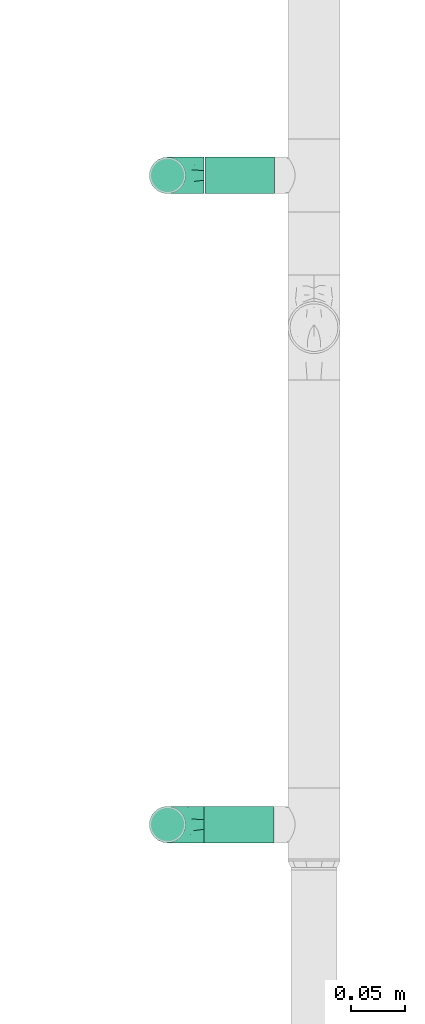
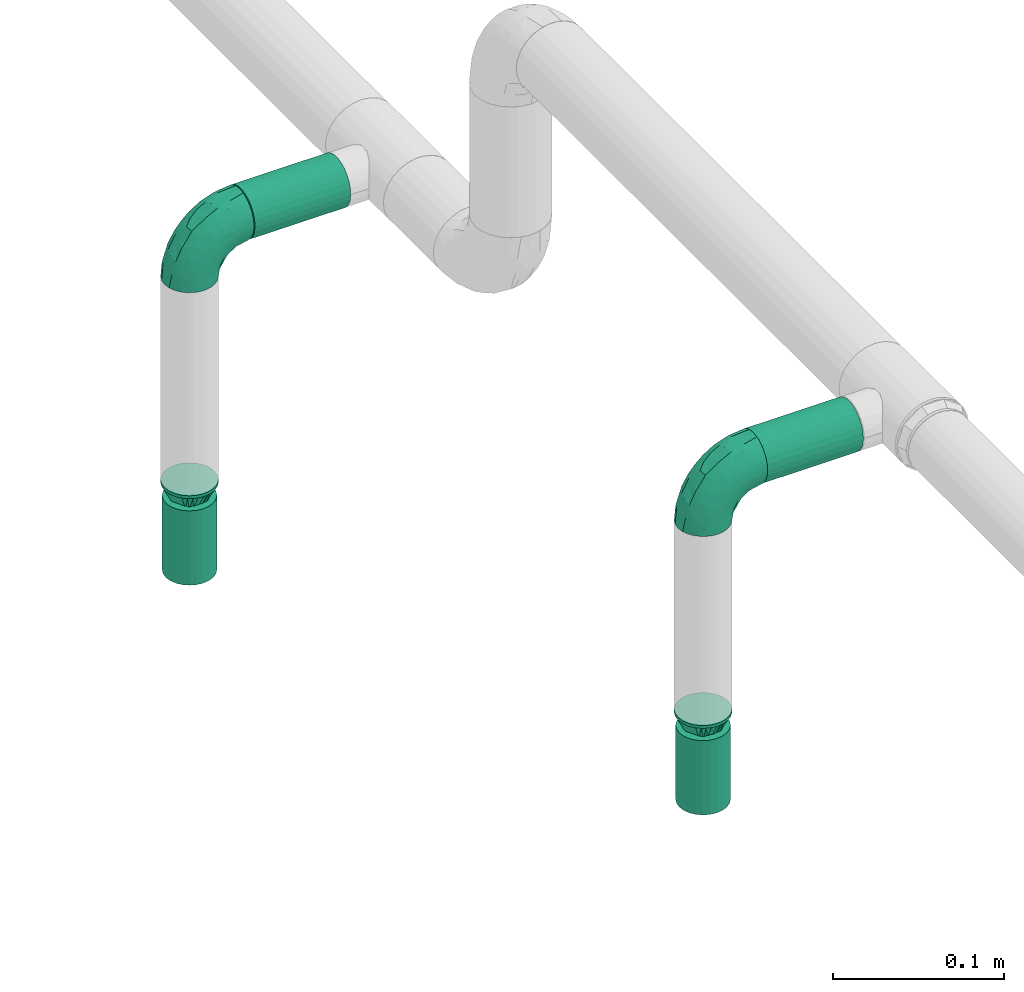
# One storey, part 64 of 157: 4 flow fittings, 2 flow segments, 2 flow terminals.
"""IFC2X3 building model written with IfcOpenShell, lengths in millimetres."""

from ifc_helpers import new_model, entity, si_unit, converted_unit, derived_unit, direction, frame, origin_with_axes, origin_2d_with_axis, place, context, subcontext, project, spatial, hollow_circle, extrude, open_shell, surface_model, source, transform, mapped, type_object, element, save


model = new_model("IFC2X3")

# Units and contexts
model_context = context("Model", 3, precision=0.01, world=frame((0.0, 4.29681676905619e-09, 0.0)), true_north=direction((4.01073788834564e-13, 1.0)))
plan_context = context("Plan", 3, precision=0.01, world=frame((0.0, 4.29681676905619e-09, 0.0)), true_north=direction((4.01073788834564e-13, 1.0)))
body_context = subcontext(model_context, "Body", "Model", "MODEL_VIEW")
ifc_project = project(units=[converted_unit("PLANEANGLEUNIT", "DEGREE", entity("IfcPositiveLengthMeasure", 0.0174532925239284), si_unit("PLANEANGLEUNIT", "RADIAN"), dimensions=[0, 0, 0, 0, 0, 0, 0]), si_unit("AREAUNIT", "SQUARE_METRE"), si_unit("LENGTHUNIT", "METRE", prefix="MILLI"), si_unit("MASSUNIT", "GRAM", prefix="KILO"), si_unit("POWERUNIT", "WATT"), si_unit("PRESSUREUNIT", "PASCAL"), si_unit("FORCEUNIT", "NEWTON", prefix="KILO"), si_unit("ELECTRICCURRENTUNIT", "AMPERE"), si_unit("THERMODYNAMICTEMPERATUREUNIT", "DEGREE_CELSIUS"), si_unit("TIMEUNIT", "SECOND"), si_unit("VOLUMEUNIT", "CUBIC_METRE"), derived_unit("LINEARVELOCITYUNIT", [(si_unit("LENGTHUNIT", "METRE"), 1), (si_unit("TIMEUNIT", "SECOND"), -1)]), derived_unit("VOLUMETRICFLOWRATEUNIT", [(si_unit("VOLUMEUNIT", "CUBIC_METRE"), 1), (si_unit("TIMEUNIT", "SECOND"), -1)]), derived_unit("THERMALTRANSMITTANCEUNIT", [(si_unit("POWERUNIT", "WATT"), 1), (si_unit("THERMODYNAMICTEMPERATUREUNIT", "KELVIN"), -1), (si_unit("AREAUNIT", "SQUARE_METRE"), -1)])], contexts=[model_context, plan_context])

# Site, building, storey
site_placement = place(None, frame((0.0, -4.29681676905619e-09, 0.0), z_axis=(0.0, 0.0, 1.0), x_axis=(1.0, 0.0, 0.0)))
site = spatial("IfcSite", under=ifc_project, at=site_placement, CompositionType="ELEMENT")
building_placement = place(site_placement, frame((0.0, 4.29681676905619e-09, 0.0), z_axis=(0.0, 0.0, 1.0), x_axis=(1.0, 0.0, 0.0)))
building = spatial("IfcBuilding", under=site, at=building_placement, Name="mc-building", CompositionType="ELEMENT")
storey_placement = place(building_placement, frame((0.0, 0.0, 204000.0), z_axis=(0.0, 0.0, 1.0), x_axis=(1.0, 0.0, 0.0)))
storey = spatial("IfcBuildingStorey", under=building, at=storey_placement, Name="Nivå D", CompositionType="ELEMENT", Elevation=204000.0)

# Flow fittings
pipe_fitting_type_1 = type_object("IfcPipeFittingType", Name="magi_pipe_fe_elbow_short_001", PredefinedType="BEND")
shared_shape_1 = source(origin_with_axes(), body_context, "Body", "SurfaceModel", [
    surface_model("IfcShellBasedSurfaceModel", [(-33.8, 8.45, -14.63583), (-33.8, 4.37404, -16.32415), (-33.8, 11.9501, -11.9501), (-33.8, -11.9501, -11.9501), (-33.8, -14.63583, -8.45), (-33.8, -8.45, -14.63583), (-33.8, 0.0, -16.9), (-33.8, -4.37404, -16.32415), (-33.8, -4.37404, 16.32415), (-33.8, 0.0, 16.9), (-33.8, -8.45, 14.63583), (-33.8, 16.32415, -4.37404), (-33.8, 14.63583, -8.45), (-33.8, -16.32415, -4.37404), (-33.8, -16.9, 0.0), (-33.8, -16.32415, 4.37404), (-33.8, 11.9501, 11.9501), (-33.8, 14.63583, 8.45), (-33.8, 16.32415, 4.37404), (-33.8, 4.37404, 16.32415), (-33.8, 8.45, 14.63583), (-33.8, -14.63583, 8.45), (-33.8, -11.9501, 11.9501), (-33.8, 16.9, 0.0), (-11.9501, 33.8, -11.9501), (0.0, 33.8, -16.9), (-4.37404, 33.8, -16.32415), (-8.45, 33.8, -14.63583), (-14.63583, 33.8, -8.45), (-16.32415, 33.8, -4.37404), (14.63583, 33.8, -8.45), (8.45, 33.8, 14.63583), (16.32415, 33.8, -4.37404), (8.45, 33.8, -14.63583), (11.9501, 33.8, -11.9501), (4.37404, 33.8, -16.32415), (16.32415, 33.8, 4.37404), (16.9, 33.8, 0.0), (-11.9501, 33.8, 11.9501), (-16.32415, 33.8, 4.37404), (-14.63583, 33.8, 8.45), (-8.45, 33.8, 14.63583), (-4.37404, 33.8, 16.32415), (11.9501, 33.8, 11.9501), (14.63583, 33.8, 8.45), (0.0, 33.8, 16.9), (4.37404, 33.8, 16.32415), (-16.9, 33.8, 0.0), (-24.79389, -13.12945, 9.48721), (-22.19287, -9.75018, 12.59315), (-24.09897, -14.97035, 0.0), (-14.93934, -10.76256, 8.5297), (-22.46095, -14.75051, 5.27077), (14.75051, 22.46094, 5.27077), (11.9251, 13.23888, 4.33236), (13.04069, 14.39795, 0.0), (7.71387, 13.68847, 11.55891), (9.75018, 22.19287, 12.59315), (4.10169, 13.0571, 14.04018), (-24.84007, -6.39063, 15.2048), (-25.81779, -2.23879, 16.61097), (-23.66549, 2.59054, 16.87119), (-26.50418, 14.06512, 11.08152), (-24.21253, 17.66365, 7.72657), (-29.58514, 15.86957, 7.00283), (-6.17382, -7.5455, 0.0), (-13.23888, -11.9251, 4.33236), (-14.39795, -13.04069, 0.0), (-17.81434, 18.87373, 11.97104), (-6.30846, 29.15138, 15.82987), (-2.31622, 25.28002, 16.85849), (-29.23923, 10.23435, 13.77053), (-1.45439, -2.85688, 7.61475), (-0.28326, 0.34872, 10.09509), (-5.74484, -4.04709, 10.4122), (-4.41137, 11.31918, 16.59407), (-8.39727, 3.10034, 15.7812), (-1.72649, 9.1306, 15.53089), (-17.39909, 24.75344, 7.64977), (-26.19233, 20.0512, 0.0), (-28.14518, 17.29657, 4.25857), (-26.05147, 6.6281, 15.96447), (-5.87354, 16.61944, 16.86968), (-12.51807, 12.51807, 16.48937), (-10.06312, 7.38516, 16.81295), (-3.01882, 3.01882, 13.81718), (-13.0571, -4.10169, 14.04018), (-16.82553, -0.15166, 16.38038), (10.76256, 14.93934, 8.5297), (13.12945, 24.79389, 9.48721), (6.39063, 24.84007, 15.2048), (2.23879, 25.81779, 16.61097), (-13.68847, -7.71387, 11.55891), (14.97035, 24.09897, 0.0), (-7.30894, 22.89991, 16.09489), (-10.67958, 26.17414, 14.008), (-12.78295, 18.26924, 15.06066), (-13.88562, 22.45231, 12.93244), (-18.04944, 15.16501, 14.04434), (-23.11658, 20.08178, 4.02986), (-21.84989, 21.84989, 0.0), (-18.55817, 25.48277, 3.93065), (-13.95142, 26.94732, 11.03289), (-18.57098, 7.23906, 16.59756), (-16.58335, 4.14122, 16.89279), (-17.96666, 11.46709, 15.63151), (-9.84453, 17.54304, 16.18938), (0.15166, 16.82553, 16.38038), (-23.27207, 11.47201, 14.23154), (3.84842, 5.86994, 10.70473), (-8.0212, -7.54413, 7.93275), (1.00345, -2.19508, 4.57414), (5.13203, 3.01004, 5.90201), (5.24161, 1.7543, 2.53265), (8.70457, 7.04947, 3.99182), (-20.0512, 26.19233, 0.0), (8.4852, 8.76699, 7.09296), (-4.55488, -6.72064, 4.90681), (2.05031, -2.05031, 0.0), (7.5455, 6.17382, 0.0), (-26.75399, 2.1369, -16.845), (-14.61995, 24.73803, -11.27736), (-28.45274, -13.45335, -9.81895), (-26.00469, 6.63555, -15.96645), (-23.06726, 20.04573, -4.26202), (-13.80647, -4.26506, -14.17873), (-14.67501, -0.21081, -16.07388), (-6.7902, -0.2828, -13.8478), (-24.53586, 11.08096, -14.13417), (-26.72048, 14.00837, -11.05776), (10.0967, 24.44989, -12.75976), (5.83237, 21.40218, -15.03047), (6.66249, 28.54238, -15.38093), (-20.38182, 15.48705, -12.74596), (12.53268, 21.23441, -9.15363), (12.54494, 15.67504, -5.54878), (9.7522, 12.89279, -8.66343), (-15.65186, 19.64213, -13.01327), (-12.03528, 20.66498, -14.67665), (-15.61907, 15.61906, -14.83879), (-25.56551, -15.26206, 0.0), (-24.65452, -15.12934, -5.50955), (13.45335, 28.45274, -9.81895), (15.12934, 24.65452, -5.50955), (-7.35442, -8.31014, -5.65563), (-15.67504, -12.54494, -5.54878), (-24.44989, -10.0967, -12.75976), (0.16522, 0.41303, -9.71728), (-5.70658, -5.33066, -8.89288), (-5.13869, -2.37198, -11.53565), (-21.23441, -12.53268, -9.15363), (0.71146, 7.93863, -14.09382), (0.21081, 14.67501, -16.07388), (3.49291, 14.42772, -14.76381), (-24.89911, -2.13088, -16.591), (-28.54238, -6.66249, -15.38093), (-18.44386, -7.71663, -13.26957), (2.13088, 24.89911, -16.591), (-28.64342, 17.44413, -2.89318), (1.70017, -1.28722, -5.09504), (-16.57067, 26.81947, -7.36596), (-17.69055, 27.4263, -3.76405), (-12.89279, -9.7522, -8.66343), (-5.96611, 5.96611, -15.95814), (-20.53709, 20.09345, -8.28985), (-2.1369, 26.75399, -16.845), (-6.89872, 24.58781, -16.02578), (-10.60739, 26.53157, -13.98044), (-21.40218, -5.83237, -15.03047), (2.93192, 5.89627, -11.55917), (6.89393, 12.61842, -11.82233), (5.58056, 5.95325, -8.79455), (-3.99512, 18.61798, -16.89635), (8.31014, 7.35442, -5.65563), (-9.1383, 9.86148, -16.89041), (-9.99983, 16.02119, -16.39699), (-16.68576, 9.78031, -16.34199), (-27.01915, 16.61158, -7.12979), (15.26206, 25.56551, 0.0), (-18.61798, 3.99512, -16.89635), (-19.37495, 27.82495, 0.0), (-12.61842, -6.89393, -11.82233), (-18.84705, 19.14018, -10.96545)], [open_shell([[[0, 1, 2]], [[3, 4, 5]], [[6, 7, 5]], [[8, 9, 10]], [[1, 6, 2]], [[11, 12, 2]], [[4, 2, 6]], [[2, 13, 10]], [[5, 4, 6]], [[2, 4, 13]], [[14, 15, 13]], [[11, 2, 16]], [[11, 17, 18]], [[11, 16, 17]], [[19, 20, 16]], [[16, 2, 10]], [[19, 16, 10]], [[21, 22, 15]], [[22, 13, 15]], [[22, 10, 13]], [[10, 9, 19]], [[11, 18, 23]], [[24, 25, 26]], [[24, 26, 27]], [[24, 28, 29]], [[25, 24, 30]], [[31, 32, 24]], [[33, 30, 34]], [[33, 35, 25]], [[25, 30, 33]], [[32, 30, 24]], [[32, 36, 37]], [[38, 24, 29]], [[39, 40, 29]], [[40, 38, 29]], [[38, 41, 42]], [[38, 31, 24]], [[31, 38, 42]], [[36, 43, 44]], [[36, 32, 43]], [[31, 45, 46]], [[32, 31, 43]], [[42, 45, 31]], [[39, 29, 47]], [[22, 48, 49]], [[15, 14, 50]], [[51, 48, 52]], [[53, 54, 55]], [[48, 22, 21]], [[15, 52, 21]], [[56, 57, 58]], [[49, 10, 22]], [[49, 59, 10]], [[9, 60, 61]], [[62, 63, 64]], [[65, 66, 67]], [[57, 43, 31]], [[62, 68, 63]], [[42, 69, 70]], [[20, 71, 16]], [[8, 60, 9]], [[72, 73, 74]], [[75, 76, 77]], [[16, 62, 17]], [[40, 39, 78]], [[79, 23, 80]], [[64, 18, 17]], [[9, 61, 19]], [[19, 81, 20]], [[82, 83, 84]], [[74, 85, 86]], [[59, 86, 87]], [[88, 89, 57]], [[90, 31, 46]], [[44, 53, 36]], [[46, 45, 91]], [[54, 53, 88]], [[44, 89, 53]], [[92, 86, 49]], [[89, 44, 43]], [[10, 59, 8]], [[53, 55, 93]], [[93, 36, 53]], [[66, 52, 67]], [[94, 82, 70]], [[95, 96, 94]], [[97, 98, 96]], [[79, 99, 100]], [[41, 38, 95]], [[101, 100, 99]], [[68, 78, 63]], [[42, 41, 69]], [[23, 18, 80]], [[95, 94, 69]], [[78, 101, 99]], [[38, 102, 95]], [[70, 45, 42]], [[97, 95, 102]], [[15, 50, 52]], [[90, 57, 31]], [[57, 90, 58]], [[81, 19, 61]], [[103, 104, 84]], [[105, 81, 103]], [[38, 40, 102]], [[106, 96, 83]], [[94, 106, 82]], [[91, 70, 107]], [[71, 62, 16]], [[62, 108, 98]], [[86, 59, 49]], [[67, 52, 50]], [[60, 59, 87]], [[92, 49, 51]], [[86, 85, 76]], [[91, 90, 46]], [[37, 36, 93]], [[107, 77, 58]], [[107, 58, 90]], [[58, 85, 109]], [[110, 74, 92]], [[72, 74, 110]], [[66, 51, 52]], [[72, 111, 112]], [[113, 114, 112]], [[56, 88, 57]], [[52, 48, 21]], [[49, 48, 51]], [[57, 89, 43]], [[53, 89, 88]], [[103, 81, 61]], [[71, 81, 108]], [[18, 64, 80]], [[63, 78, 99]], [[47, 115, 101]], [[101, 115, 100]], [[40, 78, 102]], [[68, 102, 78]], [[97, 96, 95]], [[105, 98, 108]], [[103, 84, 83]], [[107, 70, 82]], [[76, 84, 87]], [[82, 84, 75]], [[70, 91, 45]], [[90, 91, 107]], [[59, 60, 8]], [[61, 60, 87]], [[73, 85, 74]], [[109, 112, 116]], [[103, 61, 104]], [[105, 103, 83]], [[96, 105, 83]], [[81, 105, 108]], [[96, 98, 105]], [[62, 98, 68]], [[61, 87, 104]], [[87, 84, 104]], [[86, 76, 87]], [[77, 76, 85]], [[58, 77, 85]], [[75, 77, 107]], [[82, 75, 107]], [[76, 75, 84]], [[81, 71, 20]], [[62, 71, 108]], [[95, 69, 41]], [[70, 69, 94]], [[62, 64, 17]], [[80, 63, 99]], [[63, 80, 64]], [[80, 99, 79]], [[66, 65, 117]], [[110, 66, 117]], [[112, 114, 116]], [[118, 117, 65]], [[110, 92, 51]], [[112, 111, 113]], [[119, 55, 54]], [[74, 86, 92]], [[58, 109, 56]], [[116, 56, 109]], [[66, 110, 51]], [[72, 110, 117]], [[111, 72, 117]], [[73, 112, 109]], [[117, 118, 111]], [[113, 111, 118]], [[118, 119, 113]], [[114, 119, 54]], [[119, 114, 113]], [[116, 54, 88]], [[54, 116, 114]], [[116, 88, 56]], [[112, 73, 72]], [[85, 73, 109]], [[78, 39, 101]], [[47, 101, 39]], [[102, 68, 97]], [[97, 68, 98]], [[82, 106, 83]], [[94, 96, 106]], [[1, 120, 6]], [[28, 24, 121]], [[3, 122, 4]], [[0, 123, 1]], [[100, 124, 79]], [[125, 126, 127]], [[128, 2, 129]], [[130, 131, 132]], [[128, 129, 133]], [[134, 135, 136]], [[137, 138, 139]], [[128, 0, 2]], [[67, 140, 141]], [[134, 142, 143]], [[141, 13, 4]], [[144, 65, 145]], [[146, 3, 5]], [[147, 148, 149]], [[145, 141, 150]], [[151, 152, 153]], [[154, 7, 6]], [[5, 155, 146]], [[150, 146, 156]], [[155, 5, 7]], [[143, 135, 134]], [[35, 157, 25]], [[23, 79, 158]], [[148, 159, 144]], [[160, 161, 29]], [[145, 162, 144]], [[163, 152, 151]], [[29, 28, 160]], [[121, 164, 160]], [[33, 34, 130]], [[25, 165, 26]], [[26, 165, 166]], [[142, 34, 30]], [[24, 27, 167]], [[124, 161, 164]], [[157, 35, 132]], [[155, 154, 168]], [[123, 0, 128]], [[169, 170, 171]], [[172, 157, 152]], [[26, 166, 27]], [[132, 35, 33]], [[142, 130, 34]], [[168, 154, 126]], [[136, 135, 173]], [[133, 137, 139]], [[2, 12, 129]], [[170, 131, 130]], [[30, 32, 143]], [[172, 174, 175]], [[176, 123, 128]], [[158, 177, 11]], [[135, 55, 119]], [[167, 27, 166]], [[175, 166, 172]], [[137, 167, 138]], [[122, 141, 4]], [[140, 14, 13]], [[32, 37, 178]], [[170, 130, 134]], [[152, 157, 131]], [[165, 157, 172]], [[153, 170, 151]], [[152, 163, 174]], [[168, 125, 156]], [[122, 146, 150]], [[120, 154, 6]], [[179, 174, 126]], [[179, 126, 154]], [[126, 163, 127]], [[162, 145, 150]], [[140, 13, 141]], [[32, 178, 143]], [[55, 143, 178]], [[177, 129, 12]], [[128, 133, 139]], [[176, 128, 139]], [[120, 123, 179]], [[121, 160, 28]], [[161, 100, 180]], [[166, 175, 138]], [[121, 24, 167]], [[161, 47, 29]], [[79, 124, 158]], [[124, 164, 177]], [[161, 124, 100]], [[136, 171, 170]], [[127, 163, 151]], [[147, 171, 159]], [[148, 144, 162]], [[127, 151, 169]], [[127, 181, 125]], [[129, 177, 164]], [[12, 11, 177]], [[159, 65, 144]], [[67, 141, 145]], [[143, 55, 135]], [[135, 119, 173]], [[123, 120, 1]], [[154, 120, 179]], [[157, 165, 25]], [[166, 165, 172]], [[172, 152, 174]], [[176, 139, 175]], [[126, 174, 163]], [[176, 174, 179]], [[174, 176, 175]], [[123, 176, 179]], [[150, 181, 162]], [[127, 149, 181]], [[181, 148, 162]], [[159, 148, 147]], [[171, 136, 173]], [[170, 134, 136]], [[159, 171, 173]], [[171, 147, 169]], [[169, 147, 149]], [[151, 170, 169]], [[164, 182, 129]], [[182, 121, 137]], [[181, 149, 148]], [[169, 149, 127]], [[182, 137, 133]], [[167, 137, 121]], [[166, 138, 167]], [[175, 139, 138]], [[129, 182, 133]], [[121, 182, 164]], [[161, 160, 164]], [[47, 161, 180]], [[177, 158, 124]], [[23, 158, 11]], [[130, 132, 33]], [[157, 132, 131]], [[143, 142, 30]], [[130, 142, 134]], [[154, 155, 7]], [[146, 155, 168]], [[146, 122, 3]], [[141, 122, 150]], [[152, 131, 153]], [[159, 119, 118]], [[67, 145, 65]], [[170, 153, 131]], [[119, 159, 173]], [[159, 118, 65]], [[156, 125, 181]], [[126, 125, 168]], [[150, 156, 181]], [[168, 156, 146]]])]),
])
for number, where, z_axis, x_axis, name in (
    (1, (521500.0, 413600.00018, 2690.0), (0.0, 1.0, 0.0), (0.0, 0.0, 1.0), "magi_pipe_fe_elbow_short_001"),
    (2, (521500.0, 413000.0, 2880.0), (0.0, 1.0, 0.0), (0.0, 0.0, 1.0), "magi_pipe_fe_elbow_short_001"),
):
    element("IfcFlowFitting", number, at=place(storey_placement, frame(where, z_axis=z_axis, x_axis=x_axis)), inside=storey, type_object=pipe_fitting_type_1, Name=name, context=body_context, shape_type="MappedRepresentation", body=[
        mapped(shared_shape_1, transform((0.0, 0.0, 0.0), scale=1.0)),
    ])
pipe_fitting_type_2 = type_object("IfcPipeFittingType", Name="magi_pipe_fe_reducer_centric_short_NOR", PredefinedType="TRANSITION")
shared_shape_2 = source(origin_with_axes(), body_context, "Body", "SurfaceModel", [
    surface_model("IfcShellBasedSurfaceModel", [(-2.0, -7.56604, -7.56604), (-2.0, -10.33541, -2.76936), (-2.0, -5.35, -9.26647), (-2.0, 5.35, -9.26647), (-2.0, 10.33541, -2.76936), (-2.0, 7.56604, -7.56604), (12.4, 11.9501, 11.9501), (12.4, 0.0, 16.9), (12.4, 11.9501, -11.9501), (12.4, 16.9, 0.0), (0.0, -10.7, 0.0), (0.0, -5.35, 9.26647), (0.0, -5.35, -9.26647), (0.0, 10.7, 0.0), (12.4, 15.66253, -2.98753), (12.4, 8.96258, -13.18758), (0.0, 6.6875, -6.94985), (12.4, -15.66253, -2.98753), (12.4, -16.9, 0.0), (12.4, 5.97505, -14.42505), (0.0, 5.35, -9.26647), (12.4, 14.42505, -5.97505), (0.0, 8.025, -4.63324), (0.0, 9.3625, -2.31662), (0.0, -9.3625, -2.31662), (0.0, -8.025, -4.63324), (12.4, -14.42505, -5.97505), (12.4, 13.18758, -8.96258), (12.4, -13.18758, -8.96258), (12.4, -11.9501, -11.9501), (0.0, -6.6875, -6.94985), (12.4, -8.96258, -13.18758), (12.4, -5.97505, -14.42505), (12.4, -15.66253, 2.98753), (12.4, -8.96258, 13.18758), (0.0, -6.6875, 6.94985), (12.4, -11.9501, 11.9501), (12.4, 15.66253, 2.98753), (12.4, -5.97505, 14.42505), (12.4, -14.42505, 5.97505), (0.0, -8.025, 4.63324), (0.0, -9.3625, 2.31662), (0.0, 9.3625, 2.31662), (0.0, 8.025, 4.63324), (12.4, 14.42505, 5.97505), (12.4, -13.18758, 8.96258), (12.4, 13.18758, 8.96258), (0.0, 6.6875, 6.94985), (12.4, 8.96258, 13.18758), (0.0, 5.35, 9.26647), (12.4, 5.97505, 14.42505), (14.4, 4.37404, -16.32415), (14.4, 8.45, -14.63583), (14.4, 11.9501, -11.9501), (14.4, -8.45, -14.63583), (14.4, 16.32415, -4.37404), (14.4, 16.32415, 4.37404), (14.4, 14.63583, -8.45), (14.4, 0.0, -16.9), (14.4, -4.37404, -16.32415), (14.4, -11.9501, -11.9501), (14.4, -16.32415, -4.37404), (14.4, -14.63583, -8.45), (14.4, -16.32415, 4.37404), (14.4, 16.9, 0.0), (14.4, 14.63583, 8.45), (14.4, 11.9501, 11.9501), (14.4, 4.37404, 16.32415), (14.4, 8.45, 14.63583), (14.4, 0.0, 16.9), (14.4, -14.63583, 8.45), (14.4, -16.9, 0.0), (14.4, -8.45, 14.63583), (14.4, -11.9501, 11.9501), (14.4, -4.37404, 16.32415), (12.4, 4.37404, 16.32415), (12.4, -14.63583, 8.45), (12.4, 16.32415, 4.37404), (12.4, 8.45, 14.63583), (12.4, 14.63583, 8.45), (12.4, -8.45, 14.63583), (12.4, -4.37404, 16.32415), (12.4, -16.32415, 4.37404), (12.4, -16.32415, -4.37404), (12.4, -8.45, -14.63583), (12.4, 16.32415, -4.37404), (12.4, 14.63583, -8.45), (12.4, 8.45, -14.63583), (12.4, 4.37404, -16.32415), (12.4, 0.0, -16.9), (12.4, -14.63583, -8.45), (12.4, -4.37404, -16.32415), (-2.0, 2.76936, 10.33541), (-2.0, 0.0, 10.7), (-2.0, 5.35, 9.26647), (-2.0, 7.56604, 7.56604), (-2.0, 9.26647, 5.35), (-2.0, 10.33541, 2.76936), (-2.0, -10.33541, 2.76936), (-2.0, -2.76936, 10.33541), (-2.0, -7.56604, 7.56604), (-2.0, -5.35, 9.26647), (-2.0, -9.26647, 5.35), (-2.0, -10.7, 0.0), (-2.0, 9.26647, -5.35), (-2.0, 2.76936, -10.33541), (-2.0, -9.26647, -5.35), (-2.0, 0.0, -10.7), (-2.0, -2.76936, -10.33541), (-2.0, 10.7, 0.0), (0.0, 0.0, -10.7), (0.0, 2.76936, -10.33541), (0.0, 10.33541, -2.76936), (0.0, 7.56604, -7.56604), (0.0, -10.33541, -2.76936), (0.0, 9.26647, -5.35), (0.0, 0.0, 10.7), (0.0, -2.76936, -10.33541), (0.0, -7.56604, -7.56604), (0.0, -9.26647, -5.35), (0.0, 10.33541, 2.76936), (0.0, 9.26647, 5.35), (0.0, 7.56604, 7.56604), (0.0, 2.76936, 10.33541), (0.0, -7.56604, 7.56604), (0.0, -10.33541, 2.76936), (0.0, -9.26647, 5.35), (0.0, -2.76936, 10.33541), (0.0, 2.675, -9.26647), (0.0, -2.675, -9.26647), (12.4, 2.98753, -15.66253), (0.0, 0.0, -9.26647), (12.4, -2.98753, -15.66253), (0.0, -2.675, 9.26647), (0.0, 2.675, 9.26647), (12.4, -2.98753, 15.66253), (0.0, 0.0, 9.26647), (12.4, 2.98753, 15.66253)], [open_shell([[[0, 1, 2]], [[3, 4, 5]], [[6, 7, 8]], [[8, 9, 6]], [[10, 11, 12]], [[13, 9, 14]], [[15, 16, 8]], [[17, 18, 10]], [[15, 19, 20]], [[21, 22, 23]], [[24, 25, 26]], [[22, 21, 27]], [[28, 26, 25]], [[29, 30, 31]], [[12, 32, 31]], [[10, 18, 33]], [[34, 35, 36]], [[37, 9, 13]], [[34, 38, 11]], [[39, 40, 41]], [[42, 43, 44]], [[40, 39, 45]], [[46, 44, 43]], [[6, 47, 48]], [[49, 50, 48]], [[51, 52, 53]], [[54, 51, 53]], [[53, 55, 56]], [[55, 53, 57]], [[53, 56, 54]], [[58, 54, 59]], [[58, 51, 54]], [[60, 61, 62]], [[61, 60, 54]], [[54, 63, 61]], [[56, 55, 64]], [[56, 65, 66]], [[56, 66, 67]], [[67, 63, 54]], [[67, 66, 68]], [[63, 67, 69]], [[69, 70, 63]], [[71, 61, 63]], [[70, 72, 73]], [[70, 69, 72]], [[72, 69, 74]], [[54, 56, 67]], [[75, 76, 7]], [[77, 75, 78]], [[6, 79, 77]], [[6, 77, 78]], [[76, 75, 77]], [[80, 76, 36]], [[80, 81, 7]], [[7, 76, 80]], [[82, 76, 77]], [[82, 83, 18]], [[82, 77, 84]], [[77, 85, 8]], [[8, 85, 86]], [[8, 87, 88]], [[84, 77, 8]], [[88, 89, 8]], [[83, 29, 90]], [[29, 83, 84]], [[84, 89, 91]], [[83, 82, 84]], [[8, 89, 84]], [[85, 77, 9]], [[83, 61, 18]], [[90, 62, 83]], [[54, 29, 84]], [[90, 29, 60]], [[59, 84, 91]], [[83, 62, 61]], [[61, 71, 18]], [[59, 54, 84]], [[60, 29, 54]], [[60, 62, 90]], [[58, 59, 91]], [[91, 89, 58]], [[88, 51, 89]], [[87, 52, 88]], [[57, 8, 86]], [[87, 8, 53]], [[55, 86, 85]], [[87, 53, 52]], [[52, 51, 88]], [[64, 55, 85]], [[57, 86, 55]], [[57, 53, 8]], [[9, 64, 85]], [[89, 51, 58]], [[77, 56, 9]], [[79, 65, 77]], [[68, 6, 78]], [[79, 6, 66]], [[67, 78, 75]], [[77, 65, 56]], [[56, 64, 9]], [[67, 68, 78]], [[66, 6, 68]], [[66, 65, 79]], [[69, 67, 75]], [[75, 7, 69]], [[81, 74, 7]], [[80, 72, 81]], [[70, 36, 76]], [[80, 36, 73]], [[63, 76, 82]], [[80, 73, 72]], [[72, 74, 81]], [[71, 63, 82]], [[70, 76, 63]], [[70, 73, 36]], [[18, 71, 82]], [[7, 74, 69]], [[92, 1, 93]], [[94, 1, 92]], [[95, 96, 97]], [[95, 97, 94]], [[98, 93, 1]], [[99, 100, 101]], [[99, 93, 100]], [[100, 98, 102]], [[93, 98, 100]], [[98, 1, 103]], [[94, 97, 1]], [[1, 97, 4]], [[5, 4, 104]], [[4, 3, 1]], [[105, 1, 3]], [[1, 0, 106]], [[2, 107, 108]], [[2, 1, 105]], [[105, 107, 2]], [[4, 97, 109]], [[20, 110, 111]], [[112, 20, 113]], [[114, 20, 112]], [[112, 113, 115]], [[116, 114, 112]], [[110, 12, 117]], [[110, 20, 12]], [[118, 114, 119]], [[114, 118, 12]], [[20, 114, 12]], [[112, 13, 120]], [[120, 121, 122]], [[120, 122, 123]], [[116, 112, 123]], [[123, 122, 49]], [[116, 124, 114]], [[125, 124, 126]], [[10, 114, 125]], [[124, 127, 11]], [[125, 114, 124]], [[127, 124, 116]], [[123, 112, 120]], [[1, 114, 103]], [[106, 119, 1]], [[12, 0, 2]], [[106, 0, 118]], [[117, 2, 108]], [[1, 119, 114]], [[114, 10, 103]], [[117, 12, 2]], [[118, 0, 12]], [[118, 119, 106]], [[110, 117, 108]], [[108, 107, 110]], [[105, 111, 107]], [[3, 20, 105]], [[115, 5, 104]], [[3, 5, 113]], [[112, 104, 4]], [[3, 113, 20]], [[20, 111, 105]], [[13, 112, 4]], [[115, 104, 112]], [[115, 113, 5]], [[109, 13, 4]], [[107, 111, 110]], [[97, 120, 109]], [[96, 121, 97]], [[49, 95, 94]], [[96, 95, 122]], [[123, 94, 92]], [[97, 121, 120]], [[120, 13, 109]], [[123, 49, 94]], [[122, 95, 49]], [[122, 121, 96]], [[116, 123, 92]], [[92, 93, 116]], [[99, 127, 93]], [[101, 11, 99]], [[126, 100, 102]], [[101, 100, 124]], [[125, 102, 98]], [[101, 124, 11]], [[11, 127, 99]], [[10, 125, 98]], [[126, 102, 125]], [[126, 124, 100]], [[103, 10, 98]], [[93, 127, 116]], [[18, 7, 36]], [[18, 29, 8]], [[89, 8, 29]], [[18, 8, 7]], [[13, 11, 49]], [[13, 20, 12]], [[13, 12, 11]], [[24, 26, 17]], [[10, 24, 17]], [[16, 15, 20]], [[30, 12, 31]], [[23, 14, 21]], [[19, 128, 20]], [[27, 8, 16]], [[32, 12, 129]], [[30, 28, 25]], [[130, 131, 128]], [[129, 132, 32]], [[16, 22, 27]], [[13, 14, 23]], [[128, 19, 130]], [[130, 89, 131]], [[131, 132, 129]], [[89, 132, 131]], [[28, 30, 29]], [[42, 44, 37]], [[13, 42, 37]], [[35, 34, 11]], [[47, 49, 48]], [[41, 33, 39]], [[38, 133, 11]], [[45, 36, 35]], [[50, 49, 134]], [[47, 46, 43]], [[135, 136, 133]], [[134, 137, 50]], [[35, 40, 45]], [[10, 33, 41]], [[133, 38, 135]], [[135, 7, 136]], [[136, 137, 134]], [[7, 137, 136]], [[46, 47, 6]]])]),
])
for number, where, z_axis, x_axis, name in (
    (3, (521500.0, 413600.0, 2496.95199999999), (0.0, -1.0, 0.0), (0.0, 0.0, 1.0), "magi_pipe_fe_reducer_centric_short_NOR"),
    (4, (521500.0, 413000.0, 2696.95199999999), (0.0, -1.0, 0.0), (0.0, 0.0, 1.0), "magi_pipe_fe_reducer_centric_short_NOR"),
):
    element("IfcFlowFitting", number, at=place(storey_placement, frame(where, z_axis=z_axis, x_axis=x_axis)), inside=storey, type_object=pipe_fitting_type_2, Name=name, context=body_context, shape_type="MappedRepresentation", body=[
        mapped(shared_shape_2, transform((0.0, 0.0, 0.0), scale=1.0)),
    ])

# Flow segments
pipe_segment_type = type_object("IfcPipeSegmentType", Name="Stålrør normaltykke", PredefinedType="RIGIDSEGMENT")
shared_shape_3 = source(origin_with_axes(), body_context, "Body", "SweptSolid", [
    extrude(hollow_circle(Radius=16.9, WallThickness=2.0, at=origin_2d_with_axis()), frame((0.0, 0.0, 0.0), z_axis=(1.0, 0.0, 0.0), x_axis=(0.0, 1.0, 0.0)), (0.0, 0.0, 1.0), 64.6),
])
for number, where, z_axis, x_axis in (
    (5, (521533.8, 413000.0, 2880.0), (0.0, 0.0, 1.0), (1.0, 0.0, 0.0)),
    (6, (521599.05, 413600.00018, 2690.0), (0.0, 0.0, 1.0), (-1.0, 0.0, 0.0)),
):
    element("IfcFlowSegment", number, at=place(storey_placement, frame(where, z_axis=z_axis, x_axis=x_axis)), inside=storey, type_object=pipe_segment_type, Name="Stålrør normaltykke", context=body_context, shape_type="MappedRepresentation", body=[
        mapped(shared_shape_3, transform((0.0, 0.0, 0.0), scale=1.0)),
    ])

# Flow terminals
fire_suppression_terminal_type = type_object("IfcFireSuppressionTerminalType", Name="SP-15-K80-68DGR-STD-HIMLING", PredefinedType="NOTDEFINED")
shared_shape_4 = source(origin_with_axes(), body_context, "Body", "SurfaceModel", [
    surface_model("IfcShellBasedSurfaceModel", [(4.1411, -15.45481, 53.0), (8.0, -13.85641, 53.0), (11.31371, -11.31371, 53.0), (-8.0, -13.85641, 53.0), (15.45481, -4.1411, 53.0), (16.0, 0.0, 53.0), (13.85641, -8.0, 53.0), (0.0, -16.0, 53.0), (-4.1411, -15.45481, 53.0), (-13.85641, -8.0, 53.0), (-11.31371, -11.31371, 53.0), (-15.45481, -4.1411, 53.0), (15.45481, 4.1411, 53.0), (13.85641, 8.0, 53.0), (11.31371, 11.31371, 53.0), (-4.1411, 15.45481, 53.0), (8.0, 13.85641, 53.0), (4.1411, 15.45481, 53.0), (0.0, 16.0, 53.0), (-13.85641, 8.0, 53.0), (-15.45481, 4.1411, 53.0), (-16.0, 0.0, 53.0), (-11.31371, 11.31371, 53.0), (-8.0, 13.85641, 53.0), (0.0, 16.0, 0.0), (4.1411, 15.45481, 0.0), (8.0, 13.85641, 0.0), (-4.1411, 15.45481, 0.0), (11.31371, 11.31371, 0.0), (13.85641, 8.0, 0.0), (15.45481, 4.1411, 0.0), (-15.45481, -4.1411, 0.0), (-11.31371, 11.31371, 0.0), (-8.0, 13.85641, 0.0), (-13.85641, 8.0, 0.0), (-15.45481, 4.1411, 0.0), (-16.0, 0.0, 0.0), (4.1411, -15.45481, 0.0), (16.0, 0.0, 0.0), (15.45481, -4.1411, 0.0), (13.85641, -8.0, 0.0), (11.31371, -11.31371, 0.0), (8.0, -13.85641, 0.0), (-8.0, -13.85641, 0.0), (-13.85641, -8.0, 0.0), (-11.31371, -11.31371, 0.0), (0.0, -16.0, 0.0), (-4.1411, -15.45481, 0.0)], [open_shell([[[0, 1, 2]], [[3, 0, 2]], [[4, 5, 2]], [[4, 2, 6]], [[3, 2, 5]], [[7, 3, 8]], [[7, 0, 3]], [[3, 9, 10]], [[9, 3, 11]], [[5, 11, 3]], [[5, 12, 11]], [[12, 13, 14]], [[15, 12, 14]], [[16, 17, 18]], [[14, 16, 15]], [[18, 15, 16]], [[11, 19, 20]], [[21, 11, 20]], [[22, 15, 23]], [[15, 22, 19]], [[19, 11, 15]], [[11, 12, 15]], [[24, 25, 26]], [[27, 24, 26]], [[28, 29, 30]], [[27, 26, 28]], [[27, 28, 31]], [[27, 32, 33]], [[32, 27, 34]], [[34, 31, 35]], [[31, 34, 27]], [[35, 31, 36]], [[28, 30, 31]], [[37, 38, 39]], [[37, 39, 40]], [[41, 42, 37]], [[41, 37, 40]], [[38, 37, 43]], [[44, 43, 45]], [[43, 44, 31]], [[43, 46, 47]], [[43, 31, 38]], [[37, 46, 43]], [[38, 31, 30]], [[11, 31, 44]], [[45, 9, 44]], [[3, 43, 47]], [[45, 43, 10]], [[8, 47, 46]], [[31, 21, 36]], [[31, 11, 21]], [[44, 9, 11]], [[45, 10, 9]], [[3, 10, 43]], [[47, 8, 3]], [[46, 7, 8]], [[0, 37, 42]], [[41, 1, 42]], [[6, 40, 39]], [[41, 40, 2]], [[4, 39, 38]], [[37, 0, 7]], [[42, 1, 0]], [[41, 2, 1]], [[40, 6, 2]], [[4, 6, 39]], [[38, 5, 4]], [[37, 7, 46]], [[12, 38, 30]], [[13, 30, 29]], [[16, 26, 25]], [[17, 25, 24]], [[30, 13, 12]], [[12, 5, 38]], [[28, 14, 13]], [[28, 26, 14]], [[14, 26, 16]], [[25, 17, 16]], [[28, 13, 29]], [[24, 18, 17]], [[15, 27, 33]], [[32, 23, 33]], [[19, 34, 35]], [[32, 34, 22]], [[20, 35, 36]], [[27, 15, 18]], [[33, 23, 15]], [[32, 22, 23]], [[34, 19, 22]], [[20, 19, 35]], [[36, 21, 20]], [[27, 18, 24]]])]),
])
for number, where, z_axis, x_axis in (
    (7, (521500.0, 413600.0, 2500.0), (0.0, 0.0, -1.0), (1.0, 0.0, 0.0)),
    (8, (521500.0, 413000.0, 2700.0), (0.0, 0.0, -1.0), (1.0, 0.0, 0.0)),
):
    element("IfcFlowTerminal", number, at=place(storey_placement, frame(where, z_axis=z_axis, x_axis=x_axis)), inside=storey, type_object=fire_suppression_terminal_type, Name="SP-15-K80-68DGR-STD-HIMLING", context=body_context, shape_type="MappedRepresentation", body=[
        mapped(shared_shape_4, transform((0.0, 0.0, 0.0), scale=1.0)),
    ])

save(model, "model.ifc")
